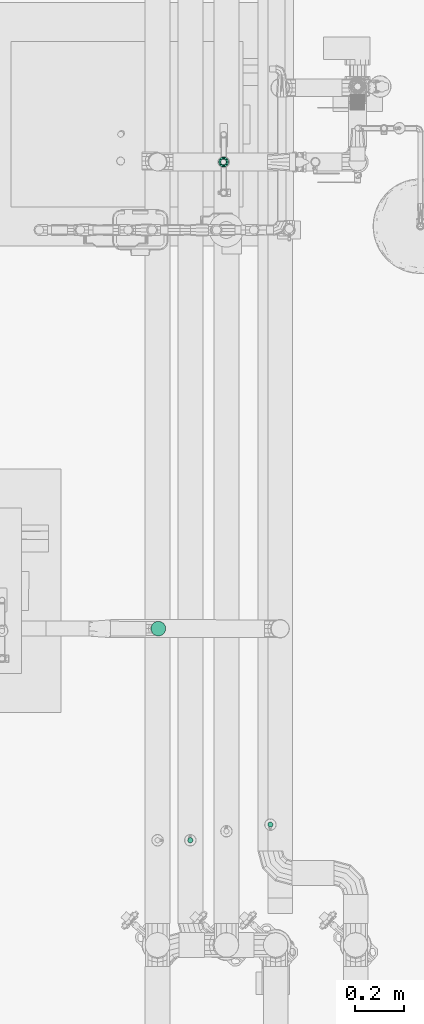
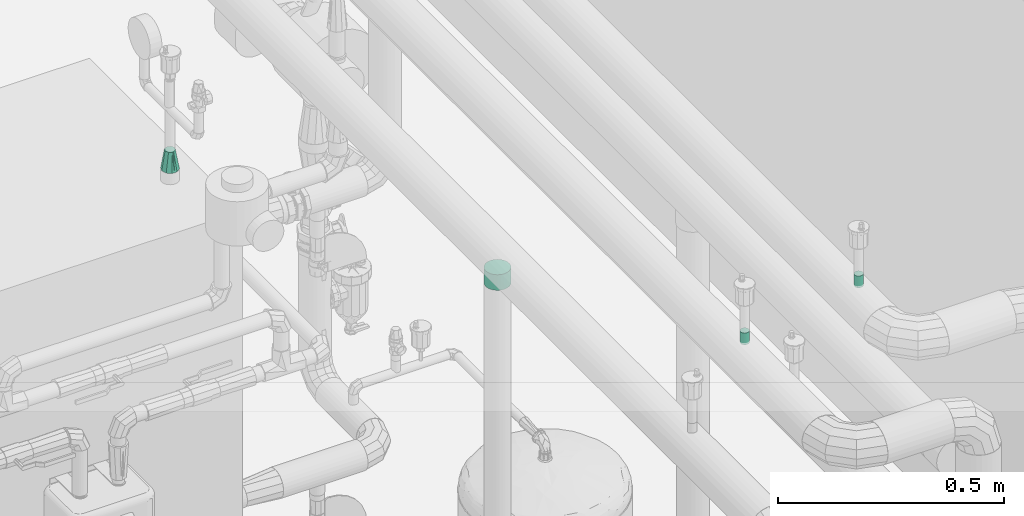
# One storey, part 36 of 43: 4 flow fittings.
"""IFC2X3 building model written with IfcOpenShell, lengths in millimetres."""

from ifc_helpers import new_model, entity, si_unit, converted_unit, derived_unit, direction, frame, origin, place, context, subcontext, project, spatial, faceted_brep, source, transform, mapped, material, type_object, type_shapes, element, save


model = new_model("IFC2X3")

# Units and contexts
model_context = context("Model", 3, precision=0.01, world=origin(), true_north=direction((6.123031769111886e-17, 1.0)))
body_context = subcontext(model_context, "Body", "Model", "MODEL_VIEW")
ifc_project = project(units=[si_unit("LENGTHUNIT", "METRE", prefix="MILLI"), si_unit("AREAUNIT", "SQUARE_METRE"), si_unit("VOLUMEUNIT", "CUBIC_METRE"), converted_unit("PLANEANGLEUNIT", "DEGREE", entity("IfcRatioMeasure", 0.017453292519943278), si_unit("PLANEANGLEUNIT", "RADIAN"), dimensions=[0, 0, 0, 0, 0, 0, 0]), si_unit("MASSUNIT", "GRAM", prefix="KILO"), derived_unit("MASSDENSITYUNIT", [(si_unit("MASSUNIT", "GRAM", prefix="KILO"), 1), (si_unit("LENGTHUNIT", "METRE"), -3)]), derived_unit("MOMENTOFINERTIAUNIT", [(si_unit("LENGTHUNIT", "METRE"), 4)]), si_unit("TIMEUNIT", "SECOND"), si_unit("FREQUENCYUNIT", "HERTZ"), si_unit("THERMODYNAMICTEMPERATUREUNIT", "DEGREE_CELSIUS"), derived_unit("THERMALTRANSMITTANCEUNIT", [(si_unit("MASSUNIT", "GRAM", prefix="KILO"), 1), (si_unit("THERMODYNAMICTEMPERATUREUNIT", "KELVIN"), -1), (si_unit("TIMEUNIT", "SECOND"), -3)]), derived_unit("VOLUMETRICFLOWRATEUNIT", [(si_unit("LENGTHUNIT", "METRE"), 3), (si_unit("TIMEUNIT", "SECOND"), -1)]), derived_unit("MASSFLOWRATEUNIT", [(si_unit("MASSUNIT", "GRAM", prefix="KILO"), 1), (si_unit("TIMEUNIT", "SECOND"), -1)]), derived_unit("ROTATIONALFREQUENCYUNIT", [(si_unit("TIMEUNIT", "SECOND"), -1)]), si_unit("ELECTRICCURRENTUNIT", "AMPERE"), si_unit("ELECTRICVOLTAGEUNIT", "VOLT"), si_unit("POWERUNIT", "WATT"), si_unit("FORCEUNIT", "NEWTON", prefix="KILO"), si_unit("ILLUMINANCEUNIT", "LUX"), si_unit("LUMINOUSFLUXUNIT", "LUMEN"), si_unit("LUMINOUSINTENSITYUNIT", "CANDELA"), derived_unit("USERDEFINED", [(si_unit("MASSUNIT", "GRAM", prefix="KILO"), -1), (si_unit("LENGTHUNIT", "METRE"), -2), (si_unit("TIMEUNIT", "SECOND"), 3), (si_unit("LUMINOUSFLUXUNIT", "LUMEN"), 1)]), derived_unit("SOUNDPOWERUNIT", [(si_unit("MASSUNIT", "GRAM", prefix="KILO"), 1), (si_unit("LENGTHUNIT", "METRE"), 2), (si_unit("TIMEUNIT", "SECOND"), -3)]), derived_unit("SOUNDPRESSUREUNIT", [(si_unit("MASSUNIT", "GRAM", prefix="KILO"), 1), (si_unit("LENGTHUNIT", "METRE"), -1), (si_unit("TIMEUNIT", "SECOND"), -2)]), derived_unit("LINEARVELOCITYUNIT", [(si_unit("LENGTHUNIT", "METRE"), 1), (si_unit("TIMEUNIT", "SECOND"), -1)]), si_unit("PRESSUREUNIT", "PASCAL"), derived_unit("USERDEFINED", [(si_unit("LENGTHUNIT", "METRE"), -2), (si_unit("MASSUNIT", "GRAM", prefix="KILO"), 1), (si_unit("TIMEUNIT", "SECOND"), -2)]), derived_unit("LINEARFORCEUNIT", [(si_unit("MASSUNIT", "GRAM", prefix="KILO"), 1), (si_unit("LENGTHUNIT", "METRE"), 1), (si_unit("TIMEUNIT", "SECOND"), -2), (si_unit("LENGTHUNIT", "METRE"), -1)]), derived_unit("PLANARFORCEUNIT", [(si_unit("MASSUNIT", "GRAM", prefix="KILO"), 1), (si_unit("LENGTHUNIT", "METRE"), 1), (si_unit("TIMEUNIT", "SECOND"), -2), (si_unit("LENGTHUNIT", "METRE"), -2)])], contexts=[model_context])

# Site, building, storey
site_placement = place(None, origin())
site = spatial("IfcSite", under=ifc_project, at=site_placement, Name="Default", CompositionType="ELEMENT")
building_placement = place(site_placement, origin())
building = spatial("IfcBuilding", under=site, at=building_placement, CompositionType="ELEMENT")
storey_placement = place(building_placement, frame((0.0, 0.0, 270.0)))
storey = spatial("IfcBuildingStorey", under=building, at=storey_placement, Name="Niveau 0", CompositionType="ELEMENT", Elevation=270.0)

# Flow fittings
ifc_material = material(Name="<Unnamed>")
pipe_fitting_type_1 = type_object("IfcPipeFittingType", Name="Piquage Acier Noir droit:Longueur = 25", PredefinedType="NOTDEFINED", material=ifc_material)
shared_shape_1 = source(origin(), body_context, "Body", "Brep", [
    faceted_brep([(-14.87172593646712, 0.0, -30.150000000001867), (-14.871725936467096, -7.803394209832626, -29.122663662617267), (-14.871725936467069, -15.074999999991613, -26.110665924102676), (-14.87172593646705, -21.319269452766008, -21.31926945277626), (-14.871725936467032, -26.11066592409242, -15.075000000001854), (-14.871725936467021, -29.122663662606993, -7.803394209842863), (-14.87172593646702, -30.149999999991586, 0.0), (-14.871725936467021, -29.122663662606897, 7.803394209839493), (-14.871725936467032, -26.11066592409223, 15.074999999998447), (-14.87172593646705, -21.319269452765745, 21.31926945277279), (-14.871725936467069, -15.074999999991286, 26.110665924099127), (-14.871725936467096, -7.803394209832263, 29.122663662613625), (-14.87172593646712, 0.0, 30.14999999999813), (-14.871725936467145, 7.803394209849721, 29.122663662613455), (-14.871725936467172, 15.07500000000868, 26.1106659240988), (-14.871725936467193, 21.319269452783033, 21.319269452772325), (-14.87172593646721, 26.110665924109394, 15.074999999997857), (-14.87172593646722, 29.1226636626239, 7.803394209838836), (-14.871725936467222, 30.15000000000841, 0.0), (-14.87172593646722, 29.1226636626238, -7.803394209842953), (-14.87172593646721, 26.1106659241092, -15.075000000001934), (-14.871725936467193, 21.31926945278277, -21.31926945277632), (-14.871725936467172, 15.075000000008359, -26.110665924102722), (-14.871725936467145, 7.8033942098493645, -29.12266366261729), (0.0, 30.15000000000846, 0.0), (0.0, 29.122663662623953, 7.803394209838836), (27.237937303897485, 29.12266366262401, 7.803394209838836), (27.237937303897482, 30.15000000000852, 0.0), (0.0, 26.110665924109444, 15.074999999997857), (27.237937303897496, 26.110665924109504, 15.074999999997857), (0.0, 15.075000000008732, 26.1106659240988), (27.23793730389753, 15.075000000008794, 26.1106659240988), (27.23793730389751, 21.319269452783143, 21.319269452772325), (0.0, 21.319269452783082, 21.319269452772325), (0.0, 7.803394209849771, 29.122663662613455), (27.237937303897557, 7.803394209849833, 29.122663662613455), (0.0, 0.0, 30.14999999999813), (27.237937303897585, 0.0, 30.14999999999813), (0.0, -7.803394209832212, 29.122663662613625), (0.0, -15.074999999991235, 26.110665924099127), (27.237937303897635, -15.074999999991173, 26.110665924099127), (27.23793730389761, -7.803394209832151, 29.122663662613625), (0.0, -21.319269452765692, 21.31926945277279), (27.237937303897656, -21.319269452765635, 21.31926945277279), (0.0, -29.122663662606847, 7.803394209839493), (27.23793730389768, -29.122663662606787, 7.803394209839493), (27.237937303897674, -26.11066592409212, 15.074999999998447), (0.0, -26.110665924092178, 15.074999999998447), (0.0, -30.149999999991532, 0.0), (27.237937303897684, -30.149999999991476, 0.0), (0.0, -29.122663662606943, -7.803394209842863), (27.23793730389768, -29.122663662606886, -7.803394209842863), (0.0, -26.11066592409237, -15.075000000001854), (27.237937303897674, -26.11066592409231, -15.075000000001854), (0.0, -15.074999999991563, -26.110665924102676), (27.237937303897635, -15.074999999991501, -26.110665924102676), (27.237937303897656, -21.319269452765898, -21.31926945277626), (0.0, -21.319269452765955, -21.31926945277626), (0.0, -7.803394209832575, -29.122663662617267), (27.23793730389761, -7.803394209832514, -29.122663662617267), (0.0, 0.0, -30.150000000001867), (27.237937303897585, 0.0, -30.150000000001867), (0.0, 7.803394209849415, -29.12266366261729), (0.0, 15.07500000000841, -26.110665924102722), (27.23793730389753, 15.075000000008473, -26.110665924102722), (27.237937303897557, 7.803394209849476, -29.12266366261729), (0.0, 21.31926945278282, -21.31926945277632), (27.23793730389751, 21.31926945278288, -21.31926945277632), (0.0, 29.12266366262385, -7.803394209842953), (27.237937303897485, 29.12266366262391, -7.803394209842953), (27.237937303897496, 26.11066592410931, -15.075000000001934), (0.0, 26.110665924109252, -15.075000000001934)], [[[0, 1, 2, 3, 4, 5, 6, 7, 8, 9, 10, 11, 12, 13, 14, 15, 16, 17, 18, 19, 20, 21, 22, 23]], [[24, 18, 17, 25, 26, 27]], [[25, 17, 16, 28, 29, 26]], [[30, 31, 32, 33, 15, 14]], [[16, 15, 33, 32, 29, 28]], [[34, 35, 31, 30, 14, 13]], [[12, 36, 37, 35, 34, 13]], [[38, 11, 10, 39, 40, 41]], [[39, 10, 9, 42, 43, 40]], [[44, 45, 46, 47, 8, 7]], [[9, 8, 47, 46, 43, 42]], [[48, 49, 45, 44, 7, 6]], [[38, 41, 37, 36, 12, 11]], [[48, 6, 5, 50, 51, 49]], [[50, 5, 4, 52, 53, 51]], [[54, 55, 56, 57, 3, 2]], [[4, 3, 57, 56, 53, 52]], [[58, 59, 55, 54, 2, 1]], [[0, 60, 61, 59, 58, 1]], [[62, 23, 22, 63, 64, 65]], [[63, 22, 21, 66, 67, 64]], [[68, 69, 70, 71, 20, 19]], [[21, 20, 71, 70, 67, 66]], [[24, 27, 69, 68, 19, 18]], [[62, 65, 61, 60, 0, 23]], [[55, 59, 61, 65, 64, 67, 70, 69, 27, 26, 29, 32, 31, 35, 37, 41, 40, 43, 46, 45, 49, 51, 53, 56]]]),
])
type_shapes(pipe_fitting_type_1, [shared_shape_1])
flow_fitting_1_placement = place(storey_placement, frame((-2500.0, -11531.02703899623, 2503.3207734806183), z_axis=(0.0, -1.0, 0.0), x_axis=(0.0, 0.0, -1.0)))
element("IfcFlowFitting", 1, at=flow_fitting_1_placement, inside=storey, type_object=pipe_fitting_type_1, material=ifc_material, Name="Piquage Acier Noir droit:Longueur = 25", ObjectType="Piquage Acier Noir droit:Longueur = 25", context=body_context, shape_type="MappedRepresentation", body=[
    mapped(shared_shape_1, transform((0.0, 0.0, 0.0), scale=1.0)),
])
pipe_fitting_type_2 = type_object("IfcPipeFittingType", Name="Transformation - Générique:Standard", PredefinedType="NOTDEFINED", material=ifc_material)
shared_shape_2 = source(origin(), body_context, "Body", "Brep", [
    faceted_brep([(51.0, -8.986609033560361, 8.986609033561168), (51.0, -9.917202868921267, 6.739956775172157), (51.0, -10.847796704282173, 4.493304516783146), (51.0, -11.77839053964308, 2.2466522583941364), (51.0, -12.708984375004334, 0.0), (51.0, -11.778390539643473, -2.246652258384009), (51.0, -10.847796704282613, -4.4933045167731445), (51.0, -9.917202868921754, -6.7399567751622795), (51.0, -8.986609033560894, -8.986609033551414), (51.0, -6.739956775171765, -9.917202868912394), (51.0, -4.493304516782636, -10.847796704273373), (51.0, -2.246652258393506, -11.778390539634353), (51.0, 0.0, -12.708984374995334), (51.0, 2.246652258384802, -11.778390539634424), (51.0, 4.493304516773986, -10.847796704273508), (51.0, 6.739956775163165, -9.917202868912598), (51.0, 8.986609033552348, -8.986609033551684), (51.0, 9.917202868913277, -6.7399567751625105), (51.0, 10.847796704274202, -4.4933045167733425), (51.0, 11.778390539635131, -2.24665225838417), (51.0, 12.708984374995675, 0.0), (51.0, 11.778390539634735, 2.24665225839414), (51.0, 10.847796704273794, 4.493304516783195), (51.0, 9.917202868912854, 6.73995677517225), (51.0, 8.986609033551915, 8.986609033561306), (51.0, 6.739956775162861, 9.917202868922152), (51.0, 4.493304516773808, 10.847796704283), (51.0, 2.2466522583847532, 11.778390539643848), (51.0, 0.0, 12.708984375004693), (51.0, -2.246652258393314, 11.778390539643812), (51.0, -4.49330451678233, 10.847796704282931), (51.0, -6.739956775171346, 9.917202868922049), (0.0, -21.099999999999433, 0.0), (0.0, -19.085129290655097, 6.2011344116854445), (0.0, -17.07025858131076, 12.40226882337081), (0.0, -11.795258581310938, 16.234780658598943), (0.0, -6.5202585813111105, 20.067292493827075), (0.0, 0.0, 20.067292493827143), (0.0, 6.5202585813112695, 20.06729249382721), (0.0, 11.795258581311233, 16.23478065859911), (0.0, 17.070258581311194, 12.402268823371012), (0.0, 18.077693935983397, 9.301701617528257), (0.0, 19.085129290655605, 6.201134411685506), (0.0, 21.100000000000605, 0.0), (0.0, 19.085129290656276, -6.201134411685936), (0.0, 17.070258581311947, -12.402268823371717), (0.0, 11.795258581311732, -16.2347806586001), (0.0, 6.5202585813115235, -20.067292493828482), (0.0, 0.0, -20.067292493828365), (0.0, -6.520258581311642, -20.067292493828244), (0.0, -11.795258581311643, -16.234780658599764), (0.0, -17.070258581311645, -12.402268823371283), (0.0, -18.07769393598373, -9.301701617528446), (0.0, -19.085129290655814, -6.201134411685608)], [[[0, 1, 2, 3, 4, 5, 6, 7, 8, 9, 10, 11, 12, 13, 14, 15, 16, 17, 18, 19, 20, 21, 22, 23, 24, 25, 26, 27, 28, 29, 30, 31]], [[32, 33, 34, 35, 36, 37, 38, 39, 40, 41, 42, 43, 44, 45, 46, 47, 48, 49, 50, 51, 52, 53]], [[51, 8, 7]], [[46, 45, 16]], [[6, 53, 52]], [[46, 16, 15, 14]], [[43, 19, 44]], [[14, 47, 46]], [[48, 13, 12]], [[17, 16, 45, 18]], [[8, 51, 50]], [[11, 48, 12]], [[32, 5, 4]], [[18, 45, 44]], [[50, 10, 9, 8]], [[5, 32, 53]], [[48, 11, 49]], [[47, 13, 48]], [[47, 14, 13]], [[11, 10, 49]], [[19, 43, 20]], [[6, 5, 53]], [[51, 7, 52]], [[7, 6, 52]], [[10, 50, 49]], [[19, 18, 44]], [[40, 24, 23]], [[35, 34, 0]], [[22, 42, 41]], [[35, 0, 31, 30]], [[32, 3, 33]], [[30, 36, 35]], [[37, 29, 28]], [[1, 0, 34, 2]], [[24, 40, 39]], [[27, 37, 28]], [[43, 21, 20]], [[2, 34, 33]], [[39, 26, 25, 24]], [[21, 43, 42]], [[37, 27, 38]], [[36, 29, 37]], [[36, 30, 29]], [[27, 26, 38]], [[3, 32, 4]], [[22, 21, 42]], [[40, 23, 41]], [[23, 22, 41]], [[26, 39, 38]], [[3, 2, 33]]]),
])
type_shapes(pipe_fitting_type_2, [shared_shape_2])
flow_fitting_2_placement = place(storey_placement, frame((-2232.0, -9615.0, 1530.0), z_axis=(0.0, 1.0, 0.0), x_axis=(0.0, 0.0, 1.0)))
element("IfcFlowFitting", 2, at=flow_fitting_2_placement, inside=storey, type_object=pipe_fitting_type_2, material=ifc_material, Name="Transformation - Générique:Standard", ObjectType="Transformation - Générique:Standard", context=body_context, shape_type="MappedRepresentation", body=[
    mapped(shared_shape_2, transform((0.0, 0.0, 0.0), scale=1.0)),
])
pipe_fitting_type_3 = type_object("IfcPipeFittingType", Name="Piquage Acier Noir droit:Longueur = 25", PredefinedType="NOTDEFINED", material=ifc_material)
shared_shape_3 = source(origin(), body_context, "Body", "Brep", [
    faceted_brep([(-6.732248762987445, 0.0, -10.650000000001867), (-6.732248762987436, -2.7564228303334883, -10.287110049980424), (-6.732248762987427, -5.324999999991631, -9.223170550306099), (-6.73224876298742, -7.530687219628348, -7.530687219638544), (-6.732248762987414, -9.223170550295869, -5.325000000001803), (-6.73224876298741, -10.287110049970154, -2.756422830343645), (-6.7322487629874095, -10.649999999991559, 0.0), (-6.73224876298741, -10.287110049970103, 2.7564228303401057), (-6.732248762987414, -9.223170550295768, 5.324999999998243), (-6.73224876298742, -7.530687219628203, 7.530687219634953), (-6.732248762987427, -5.324999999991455, 9.223170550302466), (-6.732248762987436, -2.7564228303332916, 10.287110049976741), (-6.732248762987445, 0.0, 10.649999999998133), (-6.732248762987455, 2.7564228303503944, 10.287110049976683), (-6.732248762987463, 5.325000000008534, 9.22317055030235), (-6.732248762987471, 7.530687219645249, 7.530687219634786), (-6.732248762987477, 9.223170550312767, 5.3249999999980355), (-6.7322487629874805, 10.287110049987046, 2.7564228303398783), (-6.732248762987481, 10.650000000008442, 0.0), (-6.7322487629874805, 10.287110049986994, -2.7564228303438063), (-6.732248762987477, 9.223170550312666, -5.325000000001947), (-6.732248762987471, 7.53068721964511, -7.530687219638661), (-6.732248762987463, 5.325000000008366, -9.223170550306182), (-6.732248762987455, 2.7564228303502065, -10.287110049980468), (0.0, 10.650000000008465, 0.0), (0.0, 10.28711004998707, 2.7564228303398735), (25.0, 10.287110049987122, 2.7564228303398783), (25.0, 10.650000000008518, 0.0), (0.0, 9.22317055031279, 5.3249999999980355), (25.0, 9.223170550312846, 5.3249999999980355), (0.0, 5.325000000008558, 9.22317055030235), (25.0, 5.325000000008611, 9.22317055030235), (25.0, 7.530687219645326, 7.530687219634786), (0.0, 7.530687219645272, 7.530687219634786), (0.0, 2.756422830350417, 10.287110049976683), (25.0, 2.756422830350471, 10.287110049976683), (0.0, 0.0, 10.649999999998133), (25.0, 0.0, 10.649999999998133), (0.0, -2.756422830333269, 10.287110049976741), (0.0, -5.324999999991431, 9.223170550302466), (25.0, -5.324999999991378, 9.223170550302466), (25.0, -2.756422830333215, 10.287110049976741), (0.0, -7.53068721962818, 7.530687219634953), (25.0, -7.530687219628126, 7.530687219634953), (0.0, -10.287110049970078, 2.7564228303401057), (25.0, -10.287110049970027, 2.7564228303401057), (25.0, -9.223170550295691, 5.324999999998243), (0.0, -9.223170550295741, 5.324999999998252), (0.0, -10.649999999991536, 0.0), (25.0, -10.649999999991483, 0.0), (0.0, -10.287110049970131, -2.756422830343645), (25.0, -10.287110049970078, -2.756422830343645), (0.0, -9.223170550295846, -5.325000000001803), (25.0, -9.223170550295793, -5.325000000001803), (0.0, -5.3249999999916, -9.223170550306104), (25.0, -5.3249999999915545, -9.223170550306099), (25.0, -7.530687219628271, -7.530687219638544), (0.0, -7.530687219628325, -7.530687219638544), (0.0, -2.756422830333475, -10.287110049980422), (25.0, -2.7564228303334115, -10.287110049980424), (0.0, 0.0, -10.650000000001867), (25.0, 0.0, -10.650000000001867), (0.0, 2.7564228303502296, -10.287110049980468), (0.0, 5.325000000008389, -9.223170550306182), (25.0, 5.325000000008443, -9.223170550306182), (25.0, 2.7564228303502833, -10.287110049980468), (0.0, 7.530687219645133, -7.530687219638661), (25.0, 7.530687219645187, -7.530687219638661), (0.0, 10.287110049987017, -2.7564228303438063), (25.0, 10.28711004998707, -2.7564228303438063), (25.0, 9.223170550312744, -5.325000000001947), (0.0, 9.22317055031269, -5.325000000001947)], [[[0, 1, 2, 3, 4, 5, 6, 7, 8, 9, 10, 11, 12, 13, 14, 15, 16, 17, 18, 19, 20, 21, 22, 23]], [[24, 18, 17, 25, 26, 27]], [[25, 17, 16, 28, 29, 26]], [[30, 31, 32, 33, 15, 14]], [[16, 15, 33, 32, 29, 28]], [[34, 35, 31, 30, 14, 13]], [[12, 36, 37, 35, 34, 13]], [[38, 11, 10, 39, 40, 41]], [[39, 10, 9, 42, 43, 40]], [[44, 45, 46, 47, 8, 7]], [[9, 8, 47, 46, 43, 42]], [[48, 49, 45, 44, 7, 6]], [[38, 41, 37, 36, 12, 11]], [[48, 6, 5, 50, 51, 49]], [[50, 5, 4, 52, 53, 51]], [[54, 55, 56, 57, 3, 2]], [[4, 3, 57, 56, 53, 52]], [[58, 59, 55, 54, 2, 1]], [[0, 60, 61, 59, 58, 1]], [[62, 23, 22, 63, 64, 65]], [[63, 22, 21, 66, 67, 64]], [[68, 69, 70, 71, 20, 19]], [[21, 20, 71, 70, 67, 66]], [[24, 27, 69, 68, 19, 18]], [[62, 65, 61, 60, 0, 23]], [[55, 59, 61, 65, 64, 67, 70, 69, 27, 26, 29, 32, 31, 35, 37, 41, 40, 43, 46, 45, 49, 51, 53, 56]]]),
])
type_shapes(pipe_fitting_type_3, [shared_shape_3])
flow_fitting_3_placement = place(storey_placement, frame((-2368.7954809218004, -12400.0, 2802.7650556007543), z_axis=(-1.0, 0.0, 0.0), x_axis=(0.0, 0.0, 1.0)))
element("IfcFlowFitting", 3, at=flow_fitting_3_placement, inside=storey, type_object=pipe_fitting_type_3, material=ifc_material, Name="Piquage Acier Noir droit:Longueur = 25", ObjectType="Piquage Acier Noir droit:Longueur = 25", context=body_context, shape_type="MappedRepresentation", body=[
    mapped(shared_shape_3, transform((0.0, 0.0, 0.0), scale=1.0)),
])
pipe_fitting_type_4 = type_object("IfcPipeFittingType", Name="Piquage Acier Noir droit:Longueur = 25", PredefinedType="NOTDEFINED", material=ifc_material)
shared_shape_4 = source(origin(), body_context, "Body", "Brep", [
    faceted_brep([(-6.652691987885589, 5.324999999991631, -9.223170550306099), (-6.652691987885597, 2.756422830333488, -10.287110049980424), (-6.652691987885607, 0.0, -10.650000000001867), (-6.652691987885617, -2.756422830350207, -10.287110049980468), (-6.652691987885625, -5.325000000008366, -9.223170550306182), (-6.652691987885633, -7.53068721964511, -7.530687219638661), (-6.652691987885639, -9.223170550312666, -5.325000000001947), (-6.652691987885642, -10.287110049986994, -2.7564228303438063), (-6.652691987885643, -10.650000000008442, 0.0), (-6.652691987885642, -10.287110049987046, 2.7564228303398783), (-6.652691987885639, -9.223170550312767, 5.3249999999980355), (-6.652691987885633, -7.530687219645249, 7.530687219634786), (-6.652691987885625, -5.325000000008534, 9.22317055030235), (-6.652691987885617, -2.756422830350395, 10.287110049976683), (-6.652691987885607, 0.0, 10.649999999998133), (-6.652691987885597, 2.756422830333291, 10.287110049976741), (-6.652691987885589, 5.324999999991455, 9.223170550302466), (-6.652691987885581, 7.530687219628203, 7.530687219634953), (-6.652691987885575, 9.223170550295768, 5.324999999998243), (-6.652691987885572, 10.287110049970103, 2.7564228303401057), (-6.6526919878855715, 10.649999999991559, 0.0), (-6.652691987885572, 10.287110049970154, -2.756422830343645), (-6.652691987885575, 9.223170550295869, -5.325000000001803), (-6.652691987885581, 7.530687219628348, -7.530687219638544), (0.0, -10.28711004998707, 2.7564228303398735), (0.0, -10.650000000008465, 0.0), (25.0, -10.650000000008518, 0.0), (25.0, -10.287110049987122, 2.7564228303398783), (0.0, -9.22317055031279, 5.3249999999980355), (25.0, -9.223170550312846, 5.3249999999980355), (0.0, -7.530687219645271, 7.530687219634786), (25.0, -7.530687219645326, 7.530687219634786), (25.0, -5.325000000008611, 9.22317055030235), (0.0, -5.325000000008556, 9.22317055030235), (25.0, -2.756422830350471, 10.287110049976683), (0.0, -2.7564228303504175, 10.287110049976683), (25.0, 0.0, 10.649999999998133), (0.0, 0.0, 10.649999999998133), (0.0, 5.324999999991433, 9.223170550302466), (0.0, 2.7564228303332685, 10.287110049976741), (25.0, 2.756422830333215, 10.287110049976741), (25.0, 5.324999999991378, 9.223170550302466), (0.0, 7.530687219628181, 7.530687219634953), (25.0, 7.530687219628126, 7.530687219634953), (0.0, 9.223170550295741, 5.324999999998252), (25.0, 9.223170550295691, 5.324999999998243), (25.0, 10.287110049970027, 2.7564228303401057), (0.0, 10.287110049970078, 2.7564228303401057), (25.0, 10.649999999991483, 0.0), (0.0, 10.649999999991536, 0.0), (0.0, 10.287110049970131, -2.756422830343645), (25.0, 10.287110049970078, -2.756422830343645), (0.0, 9.223170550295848, -5.325000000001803), (25.0, 9.223170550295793, -5.325000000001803), (0.0, 7.530687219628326, -7.530687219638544), (25.0, 7.530687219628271, -7.530687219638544), (25.0, 5.3249999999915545, -9.223170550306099), (0.0, 5.324999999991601, -9.223170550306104), (25.0, 2.7564228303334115, -10.287110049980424), (0.0, 2.7564228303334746, -10.287110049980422), (25.0, 0.0, -10.650000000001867), (0.0, 0.0, -10.650000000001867), (0.0, -5.325000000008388, -9.223170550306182), (0.0, -2.75642283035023, -10.287110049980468), (25.0, -2.7564228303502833, -10.287110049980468), (25.0, -5.325000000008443, -9.223170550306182), (0.0, -7.530687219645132, -7.530687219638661), (25.0, -7.530687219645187, -7.530687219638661), (0.0, -9.22317055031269, -5.325000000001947), (25.0, -9.223170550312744, -5.325000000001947), (25.0, -10.28711004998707, -2.7564228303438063), (0.0, -10.287110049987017, -2.7564228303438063)], [[[0, 1, 2, 3, 4, 5, 6, 7, 8, 9, 10, 11, 12, 13, 14, 15, 16, 17, 18, 19, 20, 21, 22, 23]], [[24, 9, 8, 25, 26, 27]], [[28, 10, 9, 24, 27, 29]], [[11, 30, 31, 32, 33, 12]], [[28, 29, 31, 30, 11, 10]], [[12, 33, 32, 34, 35, 13]], [[13, 35, 34, 36, 37, 14]], [[38, 16, 15, 39, 40, 41]], [[42, 17, 16, 38, 41, 43]], [[18, 44, 45, 46, 47, 19]], [[42, 43, 45, 44, 18, 17]], [[19, 47, 46, 48, 49, 20]], [[15, 14, 37, 36, 40, 39]], [[50, 21, 20, 49, 48, 51]], [[52, 22, 21, 50, 51, 53]], [[23, 54, 55, 56, 57, 0]], [[52, 53, 55, 54, 23, 22]], [[0, 57, 56, 58, 59, 1]], [[1, 59, 58, 60, 61, 2]], [[62, 4, 3, 63, 64, 65]], [[66, 5, 4, 62, 65, 67]], [[6, 68, 69, 70, 71, 7]], [[66, 67, 69, 68, 6, 5]], [[7, 71, 70, 26, 25, 8]], [[3, 2, 61, 60, 64, 63]], [[60, 58, 56, 55, 53, 51, 48, 46, 45, 43, 41, 40, 36, 34, 32, 31, 29, 27, 26, 70, 69, 67, 65, 64]]]),
])
type_shapes(pipe_fitting_type_4, [shared_shape_4])
flow_fitting_4_placement = place(storey_placement, frame((-2040.0, -12335.840069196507, 2802.78835868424), z_axis=(1.0, 0.0, 0.0), x_axis=(0.0, 0.0, 1.0)))
element("IfcFlowFitting", 4, at=flow_fitting_4_placement, inside=storey, type_object=pipe_fitting_type_4, material=ifc_material, Name="Piquage Acier Noir droit:Longueur = 25", ObjectType="Piquage Acier Noir droit:Longueur = 25", context=body_context, shape_type="MappedRepresentation", body=[
    mapped(shared_shape_4, transform((0.0, 0.0, 0.0), scale=1.0)),
])

save(model, "model.ifc")
